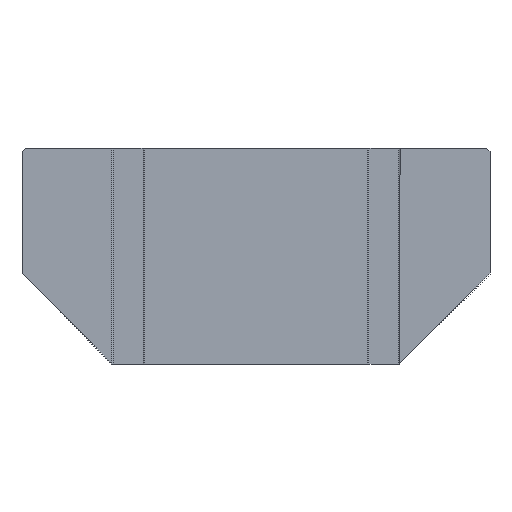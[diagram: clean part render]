
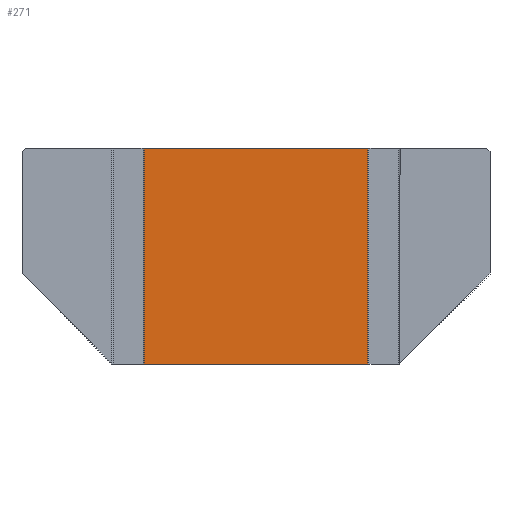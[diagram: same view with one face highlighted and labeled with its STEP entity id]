
A CAD part, front view. The second image highlights one B-rep face of the part: STEP entity #271.
In plain terms, the highlighted planar face has unit normal (0, -1, 0).
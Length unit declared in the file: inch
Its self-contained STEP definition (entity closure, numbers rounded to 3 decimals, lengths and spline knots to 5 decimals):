
#51 = DIRECTION ( 'NONE',  ( 1., 0., 0. ) ) ;
#64 = VECTOR ( 'NONE', #871, 39.37008 ) ;
#110 = PLANE ( 'NONE',  #1581 ) ;
#239 = VERTEX_POINT ( 'NONE', #1027 ) ;
#256 = DIRECTION ( 'NONE',  ( 0., 0., 1. ) ) ;
#271 = ADVANCED_FACE ( 'NONE', ( #1266 ), #110, .F. ) ;
#325 = CARTESIAN_POINT ( 'NONE',  ( -1.22047, -0.11811, -1.1811 ) ) ;
#335 = ORIENTED_EDGE ( 'NONE', *, *, #1505, .T. ) ;
#382 = LINE ( 'NONE', #1267, #1552 ) ;
#402 = DIRECTION ( 'NONE',  ( 0., 0., 1. ) ) ;
#546 = VECTOR ( 'NONE', #402, 39.37008 ) ;
#553 = LINE ( 'NONE', #1671, #546 ) ;
#653 = EDGE_CURVE ( 'NONE', #1427, #239, #1390, .T. ) ;
#766 = EDGE_CURVE ( 'NONE', #978, #835, #553, .T. ) ;
#779 = DIRECTION ( 'NONE',  ( 1., 0., 0. ) ) ;
#835 = VERTEX_POINT ( 'NONE', #1319 ) ;
#871 = DIRECTION ( 'NONE',  ( 0., 0., 1. ) ) ;
#978 = VERTEX_POINT ( 'NONE', #325 ) ;
#1012 = EDGE_CURVE ( 'NONE', #835, #239, #1622, .T. ) ;
#1027 = CARTESIAN_POINT ( 'NONE',  ( 1.22047, -0.11811, 1.1811 ) ) ;
#1047 = EDGE_LOOP ( 'NONE', ( #335, #1460, #1077, #1182 ) ) ;
#1077 = ORIENTED_EDGE ( 'NONE', *, *, #1012, .F. ) ;
#1155 = VECTOR ( 'NONE', #51, 39.37008 ) ;
#1182 = ORIENTED_EDGE ( 'NONE', *, *, #766, .F. ) ;
#1193 = CARTESIAN_POINT ( 'NONE',  ( 1.22047, -0.11811, -1.1811 ) ) ;
#1195 = CARTESIAN_POINT ( 'NONE',  ( 0., -0.11811, 1.1811 ) ) ;
#1250 = DIRECTION ( 'NONE',  ( 0., 1., 0. ) ) ;
#1256 = CARTESIAN_POINT ( 'NONE',  ( 0., -0.11811, 0. ) ) ;
#1266 = FACE_OUTER_BOUND ( 'NONE', #1047, .T. ) ;
#1267 = CARTESIAN_POINT ( 'NONE',  ( 2.55906, -0.11811, -1.1811 ) ) ;
#1319 = CARTESIAN_POINT ( 'NONE',  ( -1.22047, -0.11811, 1.1811 ) ) ;
#1380 = CARTESIAN_POINT ( 'NONE',  ( 1.22047, -0.11811, -1.1811 ) ) ;
#1390 = LINE ( 'NONE', #1380, #64 ) ;
#1427 = VERTEX_POINT ( 'NONE', #1193 ) ;
#1460 = ORIENTED_EDGE ( 'NONE', *, *, #653, .T. ) ;
#1505 = EDGE_CURVE ( 'NONE', #978, #1427, #382, .T. ) ;
#1552 = VECTOR ( 'NONE', #779, 39.37008 ) ;
#1581 = AXIS2_PLACEMENT_3D ( 'NONE', #1256, #1250, #256 ) ;
#1622 = LINE ( 'NONE', #1195, #1155 ) ;
#1671 = CARTESIAN_POINT ( 'NONE',  ( -1.22047, -0.11811, 0. ) ) ;
